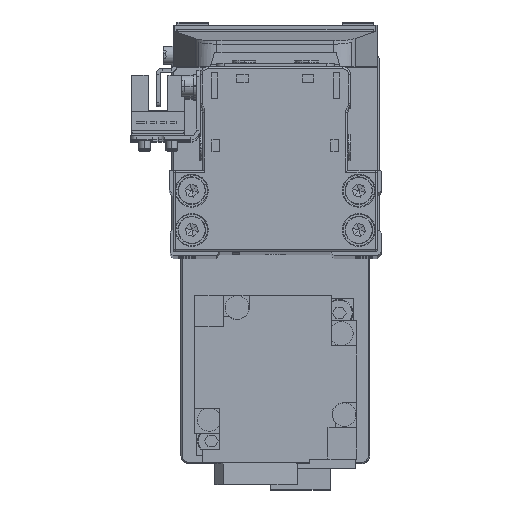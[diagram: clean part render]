
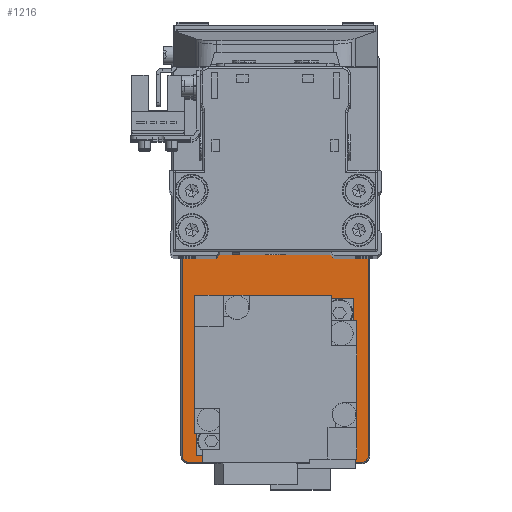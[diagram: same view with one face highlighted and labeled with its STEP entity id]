
A CAD part, top view. The second image highlights one B-rep face of the part: STEP entity #1216.
In plain terms, the highlighted planar face has unit normal (0, 0, 1).
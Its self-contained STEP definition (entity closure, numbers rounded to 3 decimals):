
#90 = VECTOR ( 'NONE', #20024, 1000. ) ;
#399 = EDGE_CURVE ( 'NONE', #6740, #19962, #34982, .T. ) ;
#890 = CARTESIAN_POINT ( 'NONE',  ( 50., -23.7, 5. ) ) ;
#1216 = ADVANCED_FACE ( 'NONE', ( #10209, #22526, #34830 ), #7159, .T. ) ;
#1326 = CARTESIAN_POINT ( 'NONE',  ( -50., 22., 5. ) ) ;
#2973 = CARTESIAN_POINT ( 'NONE',  ( 17.2, 0., 5. ) ) ;
#3025 = CARTESIAN_POINT ( 'NONE',  ( -51.7, 22., 5. ) ) ;
#3310 = ORIENTED_EDGE ( 'NONE', *, *, #21917, .T. ) ;
#3642 = DIRECTION ( 'NONE',  ( 1., 0., 0. ) ) ;
#3846 = VECTOR ( 'NONE', #36287, 1000. ) ;
#3968 = CARTESIAN_POINT ( 'NONE',  ( 51.7, -22., 5. ) ) ;
#4109 = CARTESIAN_POINT ( 'NONE',  ( -38.3, 0., 5. ) ) ;
#4147 = DIRECTION ( 'NONE',  ( 1., 0., 0. ) ) ;
#4684 = DIRECTION ( 'NONE',  ( -1., 0., 0. ) ) ;
#5280 = CARTESIAN_POINT ( 'NONE',  ( 30., 0., 5. ) ) ;
#6353 = DIRECTION ( 'NONE',  ( 0., 0., -1. ) ) ;
#6500 = ORIENTED_EDGE ( 'NONE', *, *, #28359, .T. ) ;
#6518 = EDGE_CURVE ( 'NONE', #36126, #11777, #24761, .T. ) ;
#6740 = VERTEX_POINT ( 'NONE', #10809 ) ;
#7026 = EDGE_CURVE ( 'NONE', #19962, #14647, #20053, .T. ) ;
#7159 = PLANE ( 'NONE',  #26651 ) ;
#7674 = CARTESIAN_POINT ( 'NONE',  ( -51.7, -22., 5. ) ) ;
#8733 = CARTESIAN_POINT ( 'NONE',  ( 30., 0., 5. ) ) ;
#9268 = CIRCLE ( 'NONE', #31857, 10.3 ) ;
#9374 = CARTESIAN_POINT ( 'NONE',  ( -28., 0., 5. ) ) ;
#9416 = DIRECTION ( 'NONE',  ( 1., 0., 0. ) ) ;
#9425 = VERTEX_POINT ( 'NONE', #4109 ) ;
#9790 = DIRECTION ( 'NONE',  ( 1., 0., 0. ) ) ;
#10033 = AXIS2_PLACEMENT_3D ( 'NONE', #1326, #13659, #25968 ) ;
#10141 = VERTEX_POINT ( 'NONE', #3968 ) ;
#10209 = FACE_BOUND ( 'NONE', #13437, .T. ) ;
#10800 = EDGE_CURVE ( 'NONE', #34569, #26143, #18644, .T. ) ;
#10809 = CARTESIAN_POINT ( 'NONE',  ( 51.7, 22., 5. ) ) ;
#11664 = LINE ( 'NONE', #23990, #3846 ) ;
#11777 = VERTEX_POINT ( 'NONE', #890 ) ;
#12869 = AXIS2_PLACEMENT_3D ( 'NONE', #8733, #21064, #33364 ) ;
#12938 = VERTEX_POINT ( 'NONE', #36088 ) ;
#12947 = EDGE_CURVE ( 'NONE', #10141, #6740, #11664, .T. ) ;
#13430 = ORIENTED_EDGE ( 'NONE', *, *, #6518, .T. ) ;
#13437 = EDGE_LOOP ( 'NONE', ( #14590, #6500 ) ) ;
#13659 = DIRECTION ( 'NONE',  ( 0., 0., 1. ) ) ;
#13872 = VERTEX_POINT ( 'NONE', #3025 ) ;
#14120 = AXIS2_PLACEMENT_3D ( 'NONE', #25148, #37444, #9790 ) ;
#14413 = CIRCLE ( 'NONE', #36980, 10.3 ) ;
#14586 = CARTESIAN_POINT ( 'NONE',  ( 50., -22., 5. ) ) ;
#14590 = ORIENTED_EDGE ( 'NONE', *, *, #10800, .T. ) ;
#14647 = VERTEX_POINT ( 'NONE', #19970 ) ;
#16039 = EDGE_CURVE ( 'NONE', #13872, #33158, #35347, .T. ) ;
#17064 = CARTESIAN_POINT ( 'NONE',  ( 42.8, 0., 5. ) ) ;
#17561 = AXIS2_PLACEMENT_3D ( 'NONE', #18998, #31307, #3642 ) ;
#17610 = DIRECTION ( 'NONE',  ( 0., 0., -1. ) ) ;
#17767 = VECTOR ( 'NONE', #4684, 1000. ) ;
#17868 = AXIS2_PLACEMENT_3D ( 'NONE', #14586, #26903, #39200 ) ;
#18644 = CIRCLE ( 'NONE', #23799, 12.8 ) ;
#18688 = DIRECTION ( 'NONE',  ( 1., 0., 0. ) ) ;
#18998 = CARTESIAN_POINT ( 'NONE',  ( 50., 22., 5. ) ) ;
#19507 = CARTESIAN_POINT ( 'NONE',  ( 0., 0., 5. ) ) ;
#19962 = VERTEX_POINT ( 'NONE', #23784 ) ;
#19970 = CARTESIAN_POINT ( 'NONE',  ( -50., 23.7, 5. ) ) ;
#20024 = DIRECTION ( 'NONE',  ( 0., -1., 0. ) ) ;
#20053 = LINE ( 'NONE', #32347, #17767 ) ;
#20670 = ORIENTED_EDGE ( 'NONE', *, *, #38337, .T. ) ;
#20751 = ORIENTED_EDGE ( 'NONE', *, *, #39203, .T. ) ;
#20886 = CARTESIAN_POINT ( 'NONE',  ( -51.7, -22., 5. ) ) ;
#21064 = DIRECTION ( 'NONE',  ( 0., 0., -1. ) ) ;
#21602 = EDGE_LOOP ( 'NONE', ( #13430, #34513, #31485, #36252, #39489, #20751, #22167, #36758 ) ) ;
#21698 = DIRECTION ( 'NONE',  ( 0., 0., -1. ) ) ;
#21917 = EDGE_CURVE ( 'NONE', #9425, #12938, #9268, .T. ) ;
#22167 = ORIENTED_EDGE ( 'NONE', *, *, #16039, .T. ) ;
#22280 = CIRCLE ( 'NONE', #10033, 1.7 ) ;
#22526 = FACE_BOUND ( 'NONE', #28381, .T. ) ;
#23784 = CARTESIAN_POINT ( 'NONE',  ( 50., 23.7, 5. ) ) ;
#23799 = AXIS2_PLACEMENT_3D ( 'NONE', #5280, #17610, #29925 ) ;
#23990 = CARTESIAN_POINT ( 'NONE',  ( 51.7, 22., 5. ) ) ;
#24761 = LINE ( 'NONE', #37070, #24840 ) ;
#24840 = VECTOR ( 'NONE', #9416, 1000. ) ;
#25148 = CARTESIAN_POINT ( 'NONE',  ( -50., -22., 5. ) ) ;
#25348 = EDGE_CURVE ( 'NONE', #11777, #10141, #35280, .T. ) ;
#25968 = DIRECTION ( 'NONE',  ( 1., 0., 0. ) ) ;
#26143 = VERTEX_POINT ( 'NONE', #2973 ) ;
#26651 = AXIS2_PLACEMENT_3D ( 'NONE', #19507, #31807, #4147 ) ;
#26903 = DIRECTION ( 'NONE',  ( 0., 0., 1. ) ) ;
#28054 = EDGE_CURVE ( 'NONE', #33158, #36126, #31525, .T. ) ;
#28359 = EDGE_CURVE ( 'NONE', #26143, #34569, #30251, .T. ) ;
#28381 = EDGE_LOOP ( 'NONE', ( #20670, #3310 ) ) ;
#29925 = DIRECTION ( 'NONE',  ( 1., 0., 0. ) ) ;
#30251 = CIRCLE ( 'NONE', #12869, 12.8 ) ;
#30962 = CARTESIAN_POINT ( 'NONE',  ( -50., -23.7, 5. ) ) ;
#31307 = DIRECTION ( 'NONE',  ( 0., 0., 1. ) ) ;
#31485 = ORIENTED_EDGE ( 'NONE', *, *, #12947, .T. ) ;
#31525 = CIRCLE ( 'NONE', #14120, 1.7 ) ;
#31807 = DIRECTION ( 'NONE',  ( 0., 0., 1. ) ) ;
#31857 = AXIS2_PLACEMENT_3D ( 'NONE', #34027, #6353, #18688 ) ;
#32347 = CARTESIAN_POINT ( 'NONE',  ( -50., 23.7, 5. ) ) ;
#33158 = VERTEX_POINT ( 'NONE', #20886 ) ;
#33364 = DIRECTION ( 'NONE',  ( 1., 0., 0. ) ) ;
#34002 = DIRECTION ( 'NONE',  ( 1., 0., 0. ) ) ;
#34027 = CARTESIAN_POINT ( 'NONE',  ( -28., 0., 5. ) ) ;
#34513 = ORIENTED_EDGE ( 'NONE', *, *, #25348, .T. ) ;
#34569 = VERTEX_POINT ( 'NONE', #17064 ) ;
#34830 = FACE_OUTER_BOUND ( 'NONE', #21602, .T. ) ;
#34982 = CIRCLE ( 'NONE', #17561, 1.7 ) ;
#35280 = CIRCLE ( 'NONE', #17868, 1.7 ) ;
#35347 = LINE ( 'NONE', #7674, #90 ) ;
#36088 = CARTESIAN_POINT ( 'NONE',  ( -17.7, 0., 5. ) ) ;
#36126 = VERTEX_POINT ( 'NONE', #30962 ) ;
#36252 = ORIENTED_EDGE ( 'NONE', *, *, #399, .T. ) ;
#36287 = DIRECTION ( 'NONE',  ( 0., 1., 0. ) ) ;
#36758 = ORIENTED_EDGE ( 'NONE', *, *, #28054, .T. ) ;
#36980 = AXIS2_PLACEMENT_3D ( 'NONE', #9374, #21698, #34002 ) ;
#37070 = CARTESIAN_POINT ( 'NONE',  ( 50., -23.7, 5. ) ) ;
#37444 = DIRECTION ( 'NONE',  ( 0., 0., 1. ) ) ;
#38337 = EDGE_CURVE ( 'NONE', #12938, #9425, #14413, .T. ) ;
#39200 = DIRECTION ( 'NONE',  ( 1., 0., 0. ) ) ;
#39203 = EDGE_CURVE ( 'NONE', #14647, #13872, #22280, .T. ) ;
#39489 = ORIENTED_EDGE ( 'NONE', *, *, #7026, .T. ) ;
